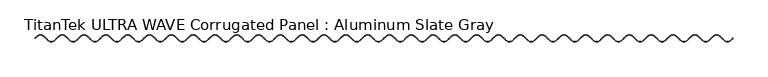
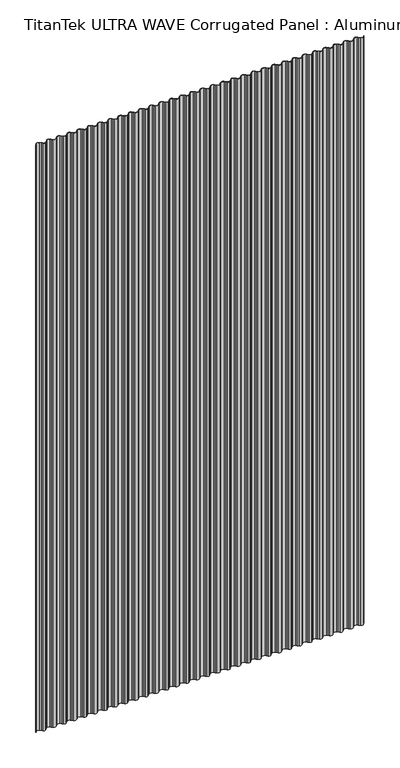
"""IFC4 building model written with IfcOpenShell, lengths in millimetres: proxy geometry, TitanTek ULTRA WAVE Corrugated Panel : Aluminum Slate Gray."""

from ifc_helpers import new_model, si_unit, point, frame_2d, origin, origin_with_axes, place, context, project, spatial, polyline, circle_curve, trimmed, segment, composite_curve, outline, extrude, source, transform, mapped, element, save


def titantek_ultra_wave_corrugated_panel_aluminum_slate_gray_bfc90fa9(model_context):
    return source(origin(), model_context, "Body", "SweptSolid", [
        extrude(outline(composite_curve([segment(trimmed(circle_curve(frame_2d((4804.41, -7.499029)), 14.7255365), [point((4814.8225267, -17.9115558))], [point((4793.9974733, -17.9115558))], False, "CARTESIAN"), True, "CONTINUOUS"), segment(polyline([(4793.9974733, -17.9115558), (4787.5492087, -11.4632913), (4781.1009442, -5.0150267)]), True, "CONTINUOUS"), segment(trimmed(circle_curve(frame_2d((4771.39, -14.725971)), 13.733349), [point((4781.1009442, -5.0150267))], [point((4761.6790558, -5.0150267))], True, "CARTESIAN"), True, "CONTINUOUS"), segment(polyline([(4761.6790558, -5.0150267), (4755.2307913, -11.4632913), (4754.5292087, -10.7617087), (4760.9774733, -4.3134442)]), True, "CONTINUOUS"), segment(trimmed(circle_curve(frame_2d((4771.39, -14.725971)), 14.7255365), [point((4760.9774733, -4.3134442))], [point((4781.8025267, -4.3134442))], False, "CARTESIAN"), True, "CONTINUOUS"), segment(polyline([(4781.8025267, -4.3134442), (4788.2507913, -10.7617087), (4794.6990558, -17.2099733)]), True, "CONTINUOUS"), segment(trimmed(circle_curve(frame_2d((4804.41, -7.499029)), 13.733349), [point((4794.6990558, -17.2099733))], [point((4814.1209442, -17.2099733))], True, "CARTESIAN"), True, "CONTINUOUS"), segment(polyline([(4814.1209442, -17.2099733), (4820.5692087, -10.7617087), (4821.2707913, -11.4632913), (4814.8225267, -17.9115558)]), True, "CONTINUOUS")], self_intersect=False)), origin_with_axes(), (0.0, 0.0, 1.0), 4000.0),
        extrude(outline(composite_curve([segment(trimmed(circle_curve(frame_2d((4738.37, -7.499029)), 14.7255365), [point((4748.7825267, -17.9115558))], [point((4727.9574733, -17.9115558))], False, "CARTESIAN"), True, "CONTINUOUS"), segment(polyline([(4727.9574733, -17.9115558), (4721.5092087, -11.4632913), (4715.0609442, -5.0150267)]), True, "CONTINUOUS"), segment(trimmed(circle_curve(frame_2d((4705.35, -14.725971)), 13.733349), [point((4715.0609442, -5.0150267))], [point((4695.6390558, -5.0150267))], True, "CARTESIAN"), True, "CONTINUOUS"), segment(polyline([(4695.6390558, -5.0150267), (4689.1907913, -11.4632913), (4688.4892087, -10.7617087), (4694.9374733, -4.3134442)]), True, "CONTINUOUS"), segment(trimmed(circle_curve(frame_2d((4705.35, -14.725971)), 14.7255365), [point((4694.9374733, -4.3134442))], [point((4715.7625267, -4.3134442))], False, "CARTESIAN"), True, "CONTINUOUS"), segment(polyline([(4715.7625267, -4.3134442), (4722.2107913, -10.7617087), (4728.6590558, -17.2099733)]), True, "CONTINUOUS"), segment(trimmed(circle_curve(frame_2d((4738.37, -7.499029)), 13.733349), [point((4728.6590558, -17.2099733))], [point((4748.0809442, -17.2099733))], True, "CARTESIAN"), True, "CONTINUOUS"), segment(polyline([(4748.0809442, -17.2099733), (4754.5292087, -10.7617087), (4755.2307913, -11.4632913), (4748.7825267, -17.9115558)]), True, "CONTINUOUS")], self_intersect=False)), origin_with_axes(), (0.0, 0.0, 1.0), 4000.0),
        extrude(outline(composite_curve([segment(trimmed(circle_curve(frame_2d((4672.33, -7.499029)), 14.7255365), [point((4682.7425267, -17.9115558))], [point((4661.9174733, -17.9115558))], False, "CARTESIAN"), True, "CONTINUOUS"), segment(polyline([(4661.9174733, -17.9115558), (4655.4692087, -11.4632913), (4649.0209442, -5.0150267)]), True, "CONTINUOUS"), segment(trimmed(circle_curve(frame_2d((4639.31, -14.725971)), 13.733349), [point((4649.0209442, -5.0150267))], [point((4629.5990558, -5.0150267))], True, "CARTESIAN"), True, "CONTINUOUS"), segment(polyline([(4629.5990558, -5.0150267), (4623.1507913, -11.4632913), (4622.4492087, -10.7617087), (4628.8974733, -4.3134442)]), True, "CONTINUOUS"), segment(trimmed(circle_curve(frame_2d((4639.31, -14.725971)), 14.7255365), [point((4628.8974733, -4.3134442))], [point((4649.7225267, -4.3134442))], False, "CARTESIAN"), True, "CONTINUOUS"), segment(polyline([(4649.7225267, -4.3134442), (4656.1707913, -10.7617087), (4662.6190558, -17.2099733)]), True, "CONTINUOUS"), segment(trimmed(circle_curve(frame_2d((4672.33, -7.499029)), 13.733349), [point((4662.6190558, -17.2099733))], [point((4682.0409442, -17.2099733))], True, "CARTESIAN"), True, "CONTINUOUS"), segment(polyline([(4682.0409442, -17.2099733), (4688.4892087, -10.7617087), (4689.1907913, -11.4632913), (4682.7425267, -17.9115558)]), True, "CONTINUOUS")], self_intersect=False)), origin_with_axes(), (0.0, 0.0, 1.0), 4000.0),
        extrude(outline(composite_curve([segment(trimmed(circle_curve(frame_2d((4606.29, -7.499029)), 14.7255365), [point((4616.7025267, -17.9115558))], [point((4595.8774733, -17.9115558))], False, "CARTESIAN"), True, "CONTINUOUS"), segment(polyline([(4595.8774733, -17.9115558), (4589.4292087, -11.4632913), (4582.9809442, -5.0150267)]), True, "CONTINUOUS"), segment(trimmed(circle_curve(frame_2d((4573.27, -14.725971)), 13.733349), [point((4582.9809442, -5.0150267))], [point((4563.5590558, -5.0150267))], True, "CARTESIAN"), True, "CONTINUOUS"), segment(polyline([(4563.5590558, -5.0150267), (4557.1107913, -11.4632913), (4556.4092087, -10.7617087), (4562.8574733, -4.3134442)]), True, "CONTINUOUS"), segment(trimmed(circle_curve(frame_2d((4573.27, -14.725971)), 14.7255365), [point((4562.8574733, -4.3134442))], [point((4583.6825267, -4.3134442))], False, "CARTESIAN"), True, "CONTINUOUS"), segment(polyline([(4583.6825267, -4.3134442), (4590.1307913, -10.7617087), (4596.5790558, -17.2099733)]), True, "CONTINUOUS"), segment(trimmed(circle_curve(frame_2d((4606.29, -7.499029)), 13.733349), [point((4596.5790558, -17.2099733))], [point((4616.0009442, -17.2099733))], True, "CARTESIAN"), True, "CONTINUOUS"), segment(polyline([(4616.0009442, -17.2099733), (4622.4492087, -10.7617087), (4623.1507913, -11.4632913), (4616.7025267, -17.9115558)]), True, "CONTINUOUS")], self_intersect=False)), origin_with_axes(), (0.0, 0.0, 1.0), 4000.0),
        extrude(outline(composite_curve([segment(trimmed(circle_curve(frame_2d((4540.25, -7.499029)), 14.7255365), [point((4550.6625267, -17.9115558))], [point((4529.8374733, -17.9115558))], False, "CARTESIAN"), True, "CONTINUOUS"), segment(polyline([(4529.8374733, -17.9115558), (4523.3892087, -11.4632913), (4516.9409442, -5.0150267)]), True, "CONTINUOUS"), segment(trimmed(circle_curve(frame_2d((4507.23, -14.725971)), 13.733349), [point((4516.9409442, -5.0150267))], [point((4497.5190558, -5.0150267))], True, "CARTESIAN"), True, "CONTINUOUS"), segment(polyline([(4497.5190558, -5.0150267), (4491.0707913, -11.4632913), (4490.3692087, -10.7617087), (4496.8174733, -4.3134442)]), True, "CONTINUOUS"), segment(trimmed(circle_curve(frame_2d((4507.23, -14.725971)), 14.7255365), [point((4496.8174733, -4.3134442))], [point((4517.6425267, -4.3134442))], False, "CARTESIAN"), True, "CONTINUOUS"), segment(polyline([(4517.6425267, -4.3134442), (4524.0907913, -10.7617087), (4530.5390558, -17.2099733)]), True, "CONTINUOUS"), segment(trimmed(circle_curve(frame_2d((4540.25, -7.499029)), 13.733349), [point((4530.5390558, -17.2099733))], [point((4549.9609442, -17.2099733))], True, "CARTESIAN"), True, "CONTINUOUS"), segment(polyline([(4549.9609442, -17.2099733), (4556.4092087, -10.7617087), (4557.1107913, -11.4632913), (4550.6625267, -17.9115558)]), True, "CONTINUOUS")], self_intersect=False)), origin_with_axes(), (0.0, 0.0, 1.0), 4000.0),
        extrude(outline(composite_curve([segment(trimmed(circle_curve(frame_2d((4474.21, -7.499029)), 14.7255365), [point((4484.6225267, -17.9115558))], [point((4463.7974733, -17.9115558))], False, "CARTESIAN"), True, "CONTINUOUS"), segment(polyline([(4463.7974733, -17.9115558), (4457.3492087, -11.4632913), (4450.9009442, -5.0150267)]), True, "CONTINUOUS"), segment(trimmed(circle_curve(frame_2d((4441.19, -14.725971)), 13.733349), [point((4450.9009442, -5.0150267))], [point((4431.4790558, -5.0150267))], True, "CARTESIAN"), True, "CONTINUOUS"), segment(polyline([(4431.4790558, -5.0150267), (4425.0307913, -11.4632913), (4424.3292087, -10.7617087), (4430.7774733, -4.3134442)]), True, "CONTINUOUS"), segment(trimmed(circle_curve(frame_2d((4441.19, -14.725971)), 14.7255365), [point((4430.7774733, -4.3134442))], [point((4451.6025267, -4.3134442))], False, "CARTESIAN"), True, "CONTINUOUS"), segment(polyline([(4451.6025267, -4.3134442), (4458.0507913, -10.7617087), (4464.4990558, -17.2099733)]), True, "CONTINUOUS"), segment(trimmed(circle_curve(frame_2d((4474.21, -7.499029)), 13.733349), [point((4464.4990558, -17.2099733))], [point((4483.9209442, -17.2099733))], True, "CARTESIAN"), True, "CONTINUOUS"), segment(polyline([(4483.9209442, -17.2099733), (4490.3692087, -10.7617087), (4491.0707913, -11.4632913), (4484.6225267, -17.9115558)]), True, "CONTINUOUS")], self_intersect=False)), origin_with_axes(), (0.0, 0.0, 1.0), 4000.0),
        extrude(outline(composite_curve([segment(trimmed(circle_curve(frame_2d((4408.17, -7.499029)), 14.7255365), [point((4418.5825267, -17.9115558))], [point((4397.7574733, -17.9115558))], False, "CARTESIAN"), True, "CONTINUOUS"), segment(polyline([(4397.7574733, -17.9115558), (4391.3092087, -11.4632913), (4384.8609442, -5.0150267)]), True, "CONTINUOUS"), segment(trimmed(circle_curve(frame_2d((4375.15, -14.725971)), 13.733349), [point((4384.8609442, -5.0150267))], [point((4365.4390558, -5.0150267))], True, "CARTESIAN"), True, "CONTINUOUS"), segment(polyline([(4365.4390558, -5.0150267), (4358.9907913, -11.4632913), (4358.2892087, -10.7617087), (4364.7374733, -4.3134442)]), True, "CONTINUOUS"), segment(trimmed(circle_curve(frame_2d((4375.15, -14.725971)), 14.7255365), [point((4364.7374733, -4.3134442))], [point((4385.5625267, -4.3134442))], False, "CARTESIAN"), True, "CONTINUOUS"), segment(polyline([(4385.5625267, -4.3134442), (4392.0107913, -10.7617087), (4398.4590558, -17.2099733)]), True, "CONTINUOUS"), segment(trimmed(circle_curve(frame_2d((4408.17, -7.499029)), 13.733349), [point((4398.4590558, -17.2099733))], [point((4417.8809442, -17.2099733))], True, "CARTESIAN"), True, "CONTINUOUS"), segment(polyline([(4417.8809442, -17.2099733), (4424.3292087, -10.7617087), (4425.0307913, -11.4632913), (4418.5825267, -17.9115558)]), True, "CONTINUOUS")], self_intersect=False)), origin_with_axes(), (0.0, 0.0, 1.0), 4000.0),
        extrude(outline(composite_curve([segment(trimmed(circle_curve(frame_2d((4342.13, -7.499029)), 14.7255365), [point((4352.5425267, -17.9115558))], [point((4331.7174733, -17.9115558))], False, "CARTESIAN"), True, "CONTINUOUS"), segment(polyline([(4331.7174733, -17.9115558), (4325.2692087, -11.4632913), (4318.8209442, -5.0150267)]), True, "CONTINUOUS"), segment(trimmed(circle_curve(frame_2d((4309.11, -14.725971)), 13.733349), [point((4318.8209442, -5.0150267))], [point((4299.3990558, -5.0150267))], True, "CARTESIAN"), True, "CONTINUOUS"), segment(polyline([(4299.3990558, -5.0150267), (4292.9507913, -11.4632913), (4292.2492087, -10.7617087), (4298.6974733, -4.3134442)]), True, "CONTINUOUS"), segment(trimmed(circle_curve(frame_2d((4309.11, -14.725971)), 14.7255365), [point((4298.6974733, -4.3134442))], [point((4319.5225267, -4.3134442))], False, "CARTESIAN"), True, "CONTINUOUS"), segment(polyline([(4319.5225267, -4.3134442), (4325.9707913, -10.7617087), (4332.4190558, -17.2099733)]), True, "CONTINUOUS"), segment(trimmed(circle_curve(frame_2d((4342.13, -7.499029)), 13.733349), [point((4332.4190558, -17.2099733))], [point((4351.8409442, -17.2099733))], True, "CARTESIAN"), True, "CONTINUOUS"), segment(polyline([(4351.8409442, -17.2099733), (4358.2892087, -10.7617087), (4358.9907913, -11.4632913), (4352.5425267, -17.9115558)]), True, "CONTINUOUS")], self_intersect=False)), origin_with_axes(), (0.0, 0.0, 1.0), 4000.0),
        extrude(outline(composite_curve([segment(trimmed(circle_curve(frame_2d((4276.09, -7.499029)), 14.7255365), [point((4286.5025267, -17.9115558))], [point((4265.6774733, -17.9115558))], False, "CARTESIAN"), True, "CONTINUOUS"), segment(polyline([(4265.6774733, -17.9115558), (4259.2292087, -11.4632913), (4252.7809442, -5.0150267)]), True, "CONTINUOUS"), segment(trimmed(circle_curve(frame_2d((4243.07, -14.725971)), 13.733349), [point((4252.7809442, -5.0150267))], [point((4233.3590558, -5.0150267))], True, "CARTESIAN"), True, "CONTINUOUS"), segment(polyline([(4233.3590558, -5.0150267), (4226.9107913, -11.4632913), (4226.2092087, -10.7617087), (4232.6574733, -4.3134442)]), True, "CONTINUOUS"), segment(trimmed(circle_curve(frame_2d((4243.07, -14.725971)), 14.7255365), [point((4232.6574733, -4.3134442))], [point((4253.4825267, -4.3134442))], False, "CARTESIAN"), True, "CONTINUOUS"), segment(polyline([(4253.4825267, -4.3134442), (4259.9307913, -10.7617087), (4266.3790558, -17.2099733)]), True, "CONTINUOUS"), segment(trimmed(circle_curve(frame_2d((4276.09, -7.499029)), 13.733349), [point((4266.3790558, -17.2099733))], [point((4285.8009442, -17.2099733))], True, "CARTESIAN"), True, "CONTINUOUS"), segment(polyline([(4285.8009442, -17.2099733), (4292.2492087, -10.7617087), (4292.9507913, -11.4632913), (4286.5025267, -17.9115558)]), True, "CONTINUOUS")], self_intersect=False)), origin_with_axes(), (0.0, 0.0, 1.0), 4000.0),
        extrude(outline(composite_curve([segment(trimmed(circle_curve(frame_2d((4210.05, -7.499029)), 14.7255365), [point((4220.4625267, -17.9115558))], [point((4199.6374733, -17.9115558))], False, "CARTESIAN"), True, "CONTINUOUS"), segment(polyline([(4199.6374733, -17.9115558), (4193.1892087, -11.4632913), (4186.7409442, -5.0150267)]), True, "CONTINUOUS"), segment(trimmed(circle_curve(frame_2d((4177.03, -14.725971)), 13.733349), [point((4186.7409442, -5.0150267))], [point((4167.3190558, -5.0150267))], True, "CARTESIAN"), True, "CONTINUOUS"), segment(polyline([(4167.3190558, -5.0150267), (4160.8707913, -11.4632913), (4160.1692087, -10.7617087), (4166.6174733, -4.3134442)]), True, "CONTINUOUS"), segment(trimmed(circle_curve(frame_2d((4177.03, -14.725971)), 14.7255365), [point((4166.6174733, -4.3134442))], [point((4187.4425267, -4.3134442))], False, "CARTESIAN"), True, "CONTINUOUS"), segment(polyline([(4187.4425267, -4.3134442), (4193.8907913, -10.7617087), (4200.3390558, -17.2099733)]), True, "CONTINUOUS"), segment(trimmed(circle_curve(frame_2d((4210.05, -7.499029)), 13.733349), [point((4200.3390558, -17.2099733))], [point((4219.7609442, -17.2099733))], True, "CARTESIAN"), True, "CONTINUOUS"), segment(polyline([(4219.7609442, -17.2099733), (4226.2092087, -10.7617087), (4226.9107913, -11.4632913), (4220.4625267, -17.9115558)]), True, "CONTINUOUS")], self_intersect=False)), origin_with_axes(), (0.0, 0.0, 1.0), 4000.0),
        extrude(outline(composite_curve([segment(trimmed(circle_curve(frame_2d((4144.01, -7.499029)), 14.7255365), [point((4154.4225267, -17.9115558))], [point((4133.5974733, -17.9115558))], False, "CARTESIAN"), True, "CONTINUOUS"), segment(polyline([(4133.5974733, -17.9115558), (4127.1492087, -11.4632913), (4120.7009442, -5.0150267)]), True, "CONTINUOUS"), segment(trimmed(circle_curve(frame_2d((4110.99, -14.725971)), 13.733349), [point((4120.7009442, -5.0150267))], [point((4101.2790558, -5.0150267))], True, "CARTESIAN"), True, "CONTINUOUS"), segment(polyline([(4101.2790558, -5.0150267), (4094.8307913, -11.4632913), (4094.1292087, -10.7617087), (4100.5774733, -4.3134442)]), True, "CONTINUOUS"), segment(trimmed(circle_curve(frame_2d((4110.99, -14.725971)), 14.7255365), [point((4100.5774733, -4.3134442))], [point((4121.4025267, -4.3134442))], False, "CARTESIAN"), True, "CONTINUOUS"), segment(polyline([(4121.4025267, -4.3134442), (4127.8507913, -10.7617087), (4134.2990558, -17.2099733)]), True, "CONTINUOUS"), segment(trimmed(circle_curve(frame_2d((4144.01, -7.499029)), 13.733349), [point((4134.2990558, -17.2099733))], [point((4153.7209442, -17.2099733))], True, "CARTESIAN"), True, "CONTINUOUS"), segment(polyline([(4153.7209442, -17.2099733), (4160.1692087, -10.7617087), (4160.8707913, -11.4632913), (4154.4225267, -17.9115558)]), True, "CONTINUOUS")], self_intersect=False)), origin_with_axes(), (0.0, 0.0, 1.0), 4000.0),
        extrude(outline(composite_curve([segment(trimmed(circle_curve(frame_2d((4077.97, -7.499029)), 14.7255365), [point((4088.3825267, -17.9115558))], [point((4067.5574733, -17.9115558))], False, "CARTESIAN"), True, "CONTINUOUS"), segment(polyline([(4067.5574733, -17.9115558), (4061.1092087, -11.4632913), (4054.6609442, -5.0150267)]), True, "CONTINUOUS"), segment(trimmed(circle_curve(frame_2d((4044.95, -14.725971)), 13.733349), [point((4054.6609442, -5.0150267))], [point((4035.2390558, -5.0150267))], True, "CARTESIAN"), True, "CONTINUOUS"), segment(polyline([(4035.2390558, -5.0150267), (4028.7907913, -11.4632913), (4028.0892087, -10.7617087), (4034.5374733, -4.3134442)]), True, "CONTINUOUS"), segment(trimmed(circle_curve(frame_2d((4044.95, -14.725971)), 14.7255365), [point((4034.5374733, -4.3134442))], [point((4055.3625267, -4.3134442))], False, "CARTESIAN"), True, "CONTINUOUS"), segment(polyline([(4055.3625267, -4.3134442), (4061.8107913, -10.7617087), (4068.2590558, -17.2099733)]), True, "CONTINUOUS"), segment(trimmed(circle_curve(frame_2d((4077.97, -7.499029)), 13.733349), [point((4068.2590558, -17.2099733))], [point((4087.6809442, -17.2099733))], True, "CARTESIAN"), True, "CONTINUOUS"), segment(polyline([(4087.6809442, -17.2099733), (4094.1292087, -10.7617087), (4094.8307913, -11.4632913), (4088.3825267, -17.9115558)]), True, "CONTINUOUS")], self_intersect=False)), origin_with_axes(), (0.0, 0.0, 1.0), 4000.0),
        extrude(outline(composite_curve([segment(trimmed(circle_curve(frame_2d((4011.93, -7.499029)), 14.7255365), [point((4022.3425267, -17.9115558))], [point((4001.5174733, -17.9115558))], False, "CARTESIAN"), True, "CONTINUOUS"), segment(polyline([(4001.5174733, -17.9115558), (3995.0692087, -11.4632913), (3988.6209442, -5.0150267)]), True, "CONTINUOUS"), segment(trimmed(circle_curve(frame_2d((3978.91, -14.725971)), 13.733349), [point((3988.6209442, -5.0150267))], [point((3969.1990558, -5.0150267))], True, "CARTESIAN"), True, "CONTINUOUS"), segment(polyline([(3969.1990558, -5.0150267), (3962.7507913, -11.4632913), (3962.0492087, -10.7617087), (3968.4974733, -4.3134442)]), True, "CONTINUOUS"), segment(trimmed(circle_curve(frame_2d((3978.91, -14.725971)), 14.7255365), [point((3968.4974733, -4.3134442))], [point((3989.3225267, -4.3134442))], False, "CARTESIAN"), True, "CONTINUOUS"), segment(polyline([(3989.3225267, -4.3134442), (3995.7707913, -10.7617087), (4002.2190558, -17.2099733)]), True, "CONTINUOUS"), segment(trimmed(circle_curve(frame_2d((4011.93, -7.499029)), 13.733349), [point((4002.2190558, -17.2099733))], [point((4021.6409442, -17.2099733))], True, "CARTESIAN"), True, "CONTINUOUS"), segment(polyline([(4021.6409442, -17.2099733), (4028.0892087, -10.7617087), (4028.7907913, -11.4632913), (4022.3425267, -17.9115558)]), True, "CONTINUOUS")], self_intersect=False)), origin_with_axes(), (0.0, 0.0, 1.0), 4000.0),
        extrude(outline(composite_curve([segment(trimmed(circle_curve(frame_2d((3945.89, -7.499029)), 14.7255365), [point((3956.3025267, -17.9115558))], [point((3935.4774733, -17.9115558))], False, "CARTESIAN"), True, "CONTINUOUS"), segment(polyline([(3935.4774733, -17.9115558), (3929.0292087, -11.4632913), (3922.5809442, -5.0150267)]), True, "CONTINUOUS"), segment(trimmed(circle_curve(frame_2d((3912.87, -14.725971)), 13.733349), [point((3922.5809442, -5.0150267))], [point((3903.1590558, -5.0150267))], True, "CARTESIAN"), True, "CONTINUOUS"), segment(polyline([(3903.1590558, -5.0150267), (3896.7107913, -11.4632913), (3896.0092087, -10.7617087), (3902.4574733, -4.3134442)]), True, "CONTINUOUS"), segment(trimmed(circle_curve(frame_2d((3912.87, -14.725971)), 14.7255365), [point((3902.4574733, -4.3134442))], [point((3923.2825267, -4.3134442))], False, "CARTESIAN"), True, "CONTINUOUS"), segment(polyline([(3923.2825267, -4.3134442), (3929.7307913, -10.7617087), (3936.1790558, -17.2099733)]), True, "CONTINUOUS"), segment(trimmed(circle_curve(frame_2d((3945.89, -7.499029)), 13.733349), [point((3936.1790558, -17.2099733))], [point((3955.6009442, -17.2099733))], True, "CARTESIAN"), True, "CONTINUOUS"), segment(polyline([(3955.6009442, -17.2099733), (3962.0492087, -10.7617087), (3962.7507913, -11.4632913), (3956.3025267, -17.9115558)]), True, "CONTINUOUS")], self_intersect=False)), origin_with_axes(), (0.0, 0.0, 1.0), 4000.0),
        extrude(outline(composite_curve([segment(trimmed(circle_curve(frame_2d((3879.85, -7.499029)), 14.7255365), [point((3890.2625267, -17.9115558))], [point((3869.4374733, -17.9115558))], False, "CARTESIAN"), True, "CONTINUOUS"), segment(polyline([(3869.4374733, -17.9115558), (3862.9892087, -11.4632913), (3856.5409442, -5.0150267)]), True, "CONTINUOUS"), segment(trimmed(circle_curve(frame_2d((3846.83, -14.725971)), 13.733349), [point((3856.5409442, -5.0150267))], [point((3837.1190558, -5.0150267))], True, "CARTESIAN"), True, "CONTINUOUS"), segment(polyline([(3837.1190558, -5.0150267), (3830.6707913, -11.4632913), (3829.9692087, -10.7617087), (3836.4174733, -4.3134442)]), True, "CONTINUOUS"), segment(trimmed(circle_curve(frame_2d((3846.83, -14.725971)), 14.7255365), [point((3836.4174733, -4.3134442))], [point((3857.2425267, -4.3134442))], False, "CARTESIAN"), True, "CONTINUOUS"), segment(polyline([(3857.2425267, -4.3134442), (3863.6907913, -10.7617087), (3870.1390558, -17.2099733)]), True, "CONTINUOUS"), segment(trimmed(circle_curve(frame_2d((3879.85, -7.499029)), 13.733349), [point((3870.1390558, -17.2099733))], [point((3889.5609442, -17.2099733))], True, "CARTESIAN"), True, "CONTINUOUS"), segment(polyline([(3889.5609442, -17.2099733), (3896.0092087, -10.7617087), (3896.7107913, -11.4632913), (3890.2625267, -17.9115558)]), True, "CONTINUOUS")], self_intersect=False)), origin_with_axes(), (0.0, 0.0, 1.0), 4000.0),
        extrude(outline(composite_curve([segment(trimmed(circle_curve(frame_2d((3813.81, -7.499029)), 14.7255365), [point((3824.2225267, -17.9115558))], [point((3803.3974733, -17.9115558))], False, "CARTESIAN"), True, "CONTINUOUS"), segment(polyline([(3803.3974733, -17.9115558), (3796.9492087, -11.4632913), (3790.5009442, -5.0150267)]), True, "CONTINUOUS"), segment(trimmed(circle_curve(frame_2d((3780.79, -14.725971)), 13.733349), [point((3790.5009442, -5.0150267))], [point((3771.0790558, -5.0150267))], True, "CARTESIAN"), True, "CONTINUOUS"), segment(polyline([(3771.0790558, -5.0150267), (3764.6307913, -11.4632913), (3763.9292087, -10.7617087), (3770.3774733, -4.3134442)]), True, "CONTINUOUS"), segment(trimmed(circle_curve(frame_2d((3780.79, -14.725971)), 14.7255365), [point((3770.3774733, -4.3134442))], [point((3791.2025267, -4.3134442))], False, "CARTESIAN"), True, "CONTINUOUS"), segment(polyline([(3791.2025267, -4.3134442), (3797.6507913, -10.7617087), (3804.0990558, -17.2099733)]), True, "CONTINUOUS"), segment(trimmed(circle_curve(frame_2d((3813.81, -7.499029)), 13.733349), [point((3804.0990558, -17.2099733))], [point((3823.5209442, -17.2099733))], True, "CARTESIAN"), True, "CONTINUOUS"), segment(polyline([(3823.5209442, -17.2099733), (3829.9692087, -10.7617087), (3830.6707913, -11.4632913), (3824.2225267, -17.9115558)]), True, "CONTINUOUS")], self_intersect=False)), origin_with_axes(), (0.0, 0.0, 1.0), 4000.0),
        extrude(outline(composite_curve([segment(trimmed(circle_curve(frame_2d((3747.77, -7.499029)), 14.7255365), [point((3758.1825267, -17.9115558))], [point((3737.3574733, -17.9115558))], False, "CARTESIAN"), True, "CONTINUOUS"), segment(polyline([(3737.3574733, -17.9115558), (3730.9092087, -11.4632913), (3724.4609442, -5.0150267)]), True, "CONTINUOUS"), segment(trimmed(circle_curve(frame_2d((3714.75, -14.725971)), 13.733349), [point((3724.4609442, -5.0150267))], [point((3705.0390558, -5.0150267))], True, "CARTESIAN"), True, "CONTINUOUS"), segment(polyline([(3705.0390558, -5.0150267), (3698.5907913, -11.4632913), (3697.8892087, -10.7617087), (3704.3374733, -4.3134442)]), True, "CONTINUOUS"), segment(trimmed(circle_curve(frame_2d((3714.75, -14.725971)), 14.7255365), [point((3704.3374733, -4.3134442))], [point((3725.1625267, -4.3134442))], False, "CARTESIAN"), True, "CONTINUOUS"), segment(polyline([(3725.1625267, -4.3134442), (3731.6107913, -10.7617087), (3738.0590558, -17.2099733)]), True, "CONTINUOUS"), segment(trimmed(circle_curve(frame_2d((3747.77, -7.499029)), 13.733349), [point((3738.0590558, -17.2099733))], [point((3757.4809442, -17.2099733))], True, "CARTESIAN"), True, "CONTINUOUS"), segment(polyline([(3757.4809442, -17.2099733), (3763.9292087, -10.7617087), (3764.6307913, -11.4632913), (3758.1825267, -17.9115558)]), True, "CONTINUOUS")], self_intersect=False)), origin_with_axes(), (0.0, 0.0, 1.0), 4000.0),
        extrude(outline(composite_curve([segment(trimmed(circle_curve(frame_2d((3681.73, -7.499029)), 14.7255365), [point((3692.1425267, -17.9115558))], [point((3671.3174733, -17.9115558))], False, "CARTESIAN"), True, "CONTINUOUS"), segment(polyline([(3671.3174733, -17.9115558), (3664.8692087, -11.4632913), (3658.4209442, -5.0150267)]), True, "CONTINUOUS"), segment(trimmed(circle_curve(frame_2d((3648.71, -14.725971)), 13.733349), [point((3658.4209442, -5.0150267))], [point((3638.9990558, -5.0150267))], True, "CARTESIAN"), True, "CONTINUOUS"), segment(polyline([(3638.9990558, -5.0150267), (3632.5507913, -11.4632913), (3631.8492087, -10.7617087), (3638.2974733, -4.3134442)]), True, "CONTINUOUS"), segment(trimmed(circle_curve(frame_2d((3648.71, -14.725971)), 14.7255365), [point((3638.2974733, -4.3134442))], [point((3659.1225267, -4.3134442))], False, "CARTESIAN"), True, "CONTINUOUS"), segment(polyline([(3659.1225267, -4.3134442), (3665.5707913, -10.7617087), (3672.0190558, -17.2099733)]), True, "CONTINUOUS"), segment(trimmed(circle_curve(frame_2d((3681.73, -7.499029)), 13.733349), [point((3672.0190558, -17.2099733))], [point((3691.4409442, -17.2099733))], True, "CARTESIAN"), True, "CONTINUOUS"), segment(polyline([(3691.4409442, -17.2099733), (3697.8892087, -10.7617087), (3698.5907913, -11.4632913), (3692.1425267, -17.9115558)]), True, "CONTINUOUS")], self_intersect=False)), origin_with_axes(), (0.0, 0.0, 1.0), 4000.0),
        extrude(outline(composite_curve([segment(trimmed(circle_curve(frame_2d((3615.69, -7.499029)), 14.7255365), [point((3626.1025267, -17.9115558))], [point((3605.2774733, -17.9115558))], False, "CARTESIAN"), True, "CONTINUOUS"), segment(polyline([(3605.2774733, -17.9115558), (3598.8292087, -11.4632913), (3592.3809442, -5.0150267)]), True, "CONTINUOUS"), segment(trimmed(circle_curve(frame_2d((3582.67, -14.725971)), 13.733349), [point((3592.3809442, -5.0150267))], [point((3572.9590558, -5.0150267))], True, "CARTESIAN"), True, "CONTINUOUS"), segment(polyline([(3572.9590558, -5.0150267), (3566.5107913, -11.4632913), (3565.8092087, -10.7617087), (3572.2574733, -4.3134442)]), True, "CONTINUOUS"), segment(trimmed(circle_curve(frame_2d((3582.67, -14.725971)), 14.7255365), [point((3572.2574733, -4.3134442))], [point((3593.0825267, -4.3134442))], False, "CARTESIAN"), True, "CONTINUOUS"), segment(polyline([(3593.0825267, -4.3134442), (3599.5307913, -10.7617087), (3605.9790558, -17.2099733)]), True, "CONTINUOUS"), segment(trimmed(circle_curve(frame_2d((3615.69, -7.499029)), 13.733349), [point((3605.9790558, -17.2099733))], [point((3625.4009442, -17.2099733))], True, "CARTESIAN"), True, "CONTINUOUS"), segment(polyline([(3625.4009442, -17.2099733), (3631.8492087, -10.7617087), (3632.5507913, -11.4632913), (3626.1025267, -17.9115558)]), True, "CONTINUOUS")], self_intersect=False)), origin_with_axes(), (0.0, 0.0, 1.0), 4000.0),
        extrude(outline(composite_curve([segment(trimmed(circle_curve(frame_2d((3549.65, -7.499029)), 14.7255365), [point((3560.0625267, -17.9115558))], [point((3539.2374733, -17.9115558))], False, "CARTESIAN"), True, "CONTINUOUS"), segment(polyline([(3539.2374733, -17.9115558), (3532.7892087, -11.4632913), (3526.3409442, -5.0150267)]), True, "CONTINUOUS"), segment(trimmed(circle_curve(frame_2d((3516.63, -14.725971)), 13.733349), [point((3526.3409442, -5.0150267))], [point((3506.9190558, -5.0150267))], True, "CARTESIAN"), True, "CONTINUOUS"), segment(polyline([(3506.9190558, -5.0150267), (3500.4707913, -11.4632913), (3499.7692087, -10.7617087), (3506.2174733, -4.3134442)]), True, "CONTINUOUS"), segment(trimmed(circle_curve(frame_2d((3516.63, -14.725971)), 14.7255365), [point((3506.2174733, -4.3134442))], [point((3527.0425267, -4.3134442))], False, "CARTESIAN"), True, "CONTINUOUS"), segment(polyline([(3527.0425267, -4.3134442), (3533.4907913, -10.7617087), (3539.9390558, -17.2099733)]), True, "CONTINUOUS"), segment(trimmed(circle_curve(frame_2d((3549.65, -7.499029)), 13.733349), [point((3539.9390558, -17.2099733))], [point((3559.3609442, -17.2099733))], True, "CARTESIAN"), True, "CONTINUOUS"), segment(polyline([(3559.3609442, -17.2099733), (3565.8092087, -10.7617087), (3566.5107913, -11.4632913), (3560.0625267, -17.9115558)]), True, "CONTINUOUS")], self_intersect=False)), origin_with_axes(), (0.0, 0.0, 1.0), 4000.0),
        extrude(outline(composite_curve([segment(trimmed(circle_curve(frame_2d((3483.61, -7.499029)), 14.7255365), [point((3494.0225267, -17.9115558))], [point((3473.1974733, -17.9115558))], False, "CARTESIAN"), True, "CONTINUOUS"), segment(polyline([(3473.1974733, -17.9115558), (3466.7492087, -11.4632913), (3460.3009442, -5.0150267)]), True, "CONTINUOUS"), segment(trimmed(circle_curve(frame_2d((3450.59, -14.725971)), 13.733349), [point((3460.3009442, -5.0150267))], [point((3440.8790558, -5.0150267))], True, "CARTESIAN"), True, "CONTINUOUS"), segment(polyline([(3440.8790558, -5.0150267), (3434.4307913, -11.4632913), (3433.7292087, -10.7617087), (3440.1774733, -4.3134442)]), True, "CONTINUOUS"), segment(trimmed(circle_curve(frame_2d((3450.59, -14.725971)), 14.7255365), [point((3440.1774733, -4.3134442))], [point((3461.0025267, -4.3134442))], False, "CARTESIAN"), True, "CONTINUOUS"), segment(polyline([(3461.0025267, -4.3134442), (3467.4507913, -10.7617087), (3473.8990558, -17.2099733)]), True, "CONTINUOUS"), segment(trimmed(circle_curve(frame_2d((3483.61, -7.499029)), 13.733349), [point((3473.8990558, -17.2099733))], [point((3493.3209442, -17.2099733))], True, "CARTESIAN"), True, "CONTINUOUS"), segment(polyline([(3493.3209442, -17.2099733), (3499.7692087, -10.7617087), (3500.4707913, -11.4632913), (3494.0225267, -17.9115558)]), True, "CONTINUOUS")], self_intersect=False)), origin_with_axes(), (0.0, 0.0, 1.0), 4000.0),
        extrude(outline(composite_curve([segment(trimmed(circle_curve(frame_2d((3417.57, -7.499029)), 14.7255365), [point((3427.9825267, -17.9115558))], [point((3407.1574733, -17.9115558))], False, "CARTESIAN"), True, "CONTINUOUS"), segment(polyline([(3407.1574733, -17.9115558), (3400.7092087, -11.4632913), (3394.2609442, -5.0150267)]), True, "CONTINUOUS"), segment(trimmed(circle_curve(frame_2d((3384.55, -14.725971)), 13.733349), [point((3394.2609442, -5.0150267))], [point((3374.8390558, -5.0150267))], True, "CARTESIAN"), True, "CONTINUOUS"), segment(polyline([(3374.8390558, -5.0150267), (3368.3907913, -11.4632913), (3367.6892087, -10.7617087), (3374.1374733, -4.3134442)]), True, "CONTINUOUS"), segment(trimmed(circle_curve(frame_2d((3384.55, -14.725971)), 14.7255365), [point((3374.1374733, -4.3134442))], [point((3394.9625267, -4.3134442))], False, "CARTESIAN"), True, "CONTINUOUS"), segment(polyline([(3394.9625267, -4.3134442), (3401.4107913, -10.7617087), (3407.8590558, -17.2099733)]), True, "CONTINUOUS"), segment(trimmed(circle_curve(frame_2d((3417.57, -7.499029)), 13.733349), [point((3407.8590558, -17.2099733))], [point((3427.2809442, -17.2099733))], True, "CARTESIAN"), True, "CONTINUOUS"), segment(polyline([(3427.2809442, -17.2099733), (3433.7292087, -10.7617087), (3434.4307913, -11.4632913), (3427.9825267, -17.9115558)]), True, "CONTINUOUS")], self_intersect=False)), origin_with_axes(), (0.0, 0.0, 1.0), 4000.0),
        extrude(outline(composite_curve([segment(trimmed(circle_curve(frame_2d((3351.53, -7.499029)), 14.7255365), [point((3361.9425267, -17.9115558))], [point((3341.1174733, -17.9115558))], False, "CARTESIAN"), True, "CONTINUOUS"), segment(polyline([(3341.1174733, -17.9115558), (3334.6692087, -11.4632913), (3328.2209442, -5.0150267)]), True, "CONTINUOUS"), segment(trimmed(circle_curve(frame_2d((3318.51, -14.725971)), 13.733349), [point((3328.2209442, -5.0150267))], [point((3308.7990558, -5.0150267))], True, "CARTESIAN"), True, "CONTINUOUS"), segment(polyline([(3308.7990558, -5.0150267), (3302.3507913, -11.4632913), (3301.6492087, -10.7617087), (3308.0974733, -4.3134442)]), True, "CONTINUOUS"), segment(trimmed(circle_curve(frame_2d((3318.51, -14.725971)), 14.7255365), [point((3308.0974733, -4.3134442))], [point((3328.9225267, -4.3134442))], False, "CARTESIAN"), True, "CONTINUOUS"), segment(polyline([(3328.9225267, -4.3134442), (3335.3707913, -10.7617087), (3341.8190558, -17.2099733)]), True, "CONTINUOUS"), segment(trimmed(circle_curve(frame_2d((3351.53, -7.499029)), 13.733349), [point((3341.8190558, -17.2099733))], [point((3361.2409442, -17.2099733))], True, "CARTESIAN"), True, "CONTINUOUS"), segment(polyline([(3361.2409442, -17.2099733), (3367.6892087, -10.7617087), (3368.3907913, -11.4632913), (3361.9425267, -17.9115558)]), True, "CONTINUOUS")], self_intersect=False)), origin_with_axes(), (0.0, 0.0, 1.0), 4000.0),
        extrude(outline(composite_curve([segment(trimmed(circle_curve(frame_2d((3285.49, -7.499029)), 14.7255365), [point((3295.9025267, -17.9115558))], [point((3275.0774733, -17.9115558))], False, "CARTESIAN"), True, "CONTINUOUS"), segment(polyline([(3275.0774733, -17.9115558), (3268.6292087, -11.4632913), (3262.1809442, -5.0150267)]), True, "CONTINUOUS"), segment(trimmed(circle_curve(frame_2d((3252.47, -14.725971)), 13.733349), [point((3262.1809442, -5.0150267))], [point((3242.7590558, -5.0150267))], True, "CARTESIAN"), True, "CONTINUOUS"), segment(polyline([(3242.7590558, -5.0150267), (3236.3107913, -11.4632913), (3235.6092087, -10.7617087), (3242.0574733, -4.3134442)]), True, "CONTINUOUS"), segment(trimmed(circle_curve(frame_2d((3252.47, -14.725971)), 14.7255365), [point((3242.0574733, -4.3134442))], [point((3262.8825267, -4.3134442))], False, "CARTESIAN"), True, "CONTINUOUS"), segment(polyline([(3262.8825267, -4.3134442), (3269.3307913, -10.7617087), (3275.7790558, -17.2099733)]), True, "CONTINUOUS"), segment(trimmed(circle_curve(frame_2d((3285.49, -7.499029)), 13.733349), [point((3275.7790558, -17.2099733))], [point((3295.2009442, -17.2099733))], True, "CARTESIAN"), True, "CONTINUOUS"), segment(polyline([(3295.2009442, -17.2099733), (3301.6492087, -10.7617087), (3302.3507913, -11.4632913), (3295.9025267, -17.9115558)]), True, "CONTINUOUS")], self_intersect=False)), origin_with_axes(), (0.0, 0.0, 1.0), 4000.0),
        extrude(outline(composite_curve([segment(trimmed(circle_curve(frame_2d((3219.45, -7.499029)), 14.7255365), [point((3229.8625267, -17.9115558))], [point((3209.0374733, -17.9115558))], False, "CARTESIAN"), True, "CONTINUOUS"), segment(polyline([(3209.0374733, -17.9115558), (3202.5892087, -11.4632913), (3196.1409442, -5.0150267)]), True, "CONTINUOUS"), segment(trimmed(circle_curve(frame_2d((3186.43, -14.725971)), 13.733349), [point((3196.1409442, -5.0150267))], [point((3176.7190558, -5.0150267))], True, "CARTESIAN"), True, "CONTINUOUS"), segment(polyline([(3176.7190558, -5.0150267), (3170.2707913, -11.4632913), (3169.5692087, -10.7617087), (3176.0174733, -4.3134442)]), True, "CONTINUOUS"), segment(trimmed(circle_curve(frame_2d((3186.43, -14.725971)), 14.7255365), [point((3176.0174733, -4.3134442))], [point((3196.8425267, -4.3134442))], False, "CARTESIAN"), True, "CONTINUOUS"), segment(polyline([(3196.8425267, -4.3134442), (3203.2907913, -10.7617087), (3209.7390558, -17.2099733)]), True, "CONTINUOUS"), segment(trimmed(circle_curve(frame_2d((3219.45, -7.499029)), 13.733349), [point((3209.7390558, -17.2099733))], [point((3229.1609442, -17.2099733))], True, "CARTESIAN"), True, "CONTINUOUS"), segment(polyline([(3229.1609442, -17.2099733), (3235.6092087, -10.7617087), (3236.3107913, -11.4632913), (3229.8625267, -17.9115558)]), True, "CONTINUOUS")], self_intersect=False)), origin_with_axes(), (0.0, 0.0, 1.0), 4000.0),
        extrude(outline(composite_curve([segment(trimmed(circle_curve(frame_2d((3153.41, -7.499029)), 14.7255365), [point((3163.8225267, -17.9115558))], [point((3142.9974733, -17.9115558))], False, "CARTESIAN"), True, "CONTINUOUS"), segment(polyline([(3142.9974733, -17.9115558), (3136.5492087, -11.4632913), (3130.1009442, -5.0150267)]), True, "CONTINUOUS"), segment(trimmed(circle_curve(frame_2d((3120.39, -14.725971)), 13.733349), [point((3130.1009442, -5.0150267))], [point((3110.6790558, -5.0150267))], True, "CARTESIAN"), True, "CONTINUOUS"), segment(polyline([(3110.6790558, -5.0150267), (3104.2307913, -11.4632913), (3103.5292087, -10.7617087), (3109.9774733, -4.3134442)]), True, "CONTINUOUS"), segment(trimmed(circle_curve(frame_2d((3120.39, -14.725971)), 14.7255365), [point((3109.9774733, -4.3134442))], [point((3130.8025267, -4.3134442))], False, "CARTESIAN"), True, "CONTINUOUS"), segment(polyline([(3130.8025267, -4.3134442), (3137.2507913, -10.7617087), (3143.6990558, -17.2099733)]), True, "CONTINUOUS"), segment(trimmed(circle_curve(frame_2d((3153.41, -7.499029)), 13.733349), [point((3143.6990558, -17.2099733))], [point((3163.1209442, -17.2099733))], True, "CARTESIAN"), True, "CONTINUOUS"), segment(polyline([(3163.1209442, -17.2099733), (3169.5692087, -10.7617087), (3170.2707913, -11.4632913), (3163.8225267, -17.9115558)]), True, "CONTINUOUS")], self_intersect=False)), origin_with_axes(), (0.0, 0.0, 1.0), 4000.0),
        extrude(outline(composite_curve([segment(trimmed(circle_curve(frame_2d((3087.37, -7.499029)), 14.7255365), [point((3097.7825267, -17.9115558))], [point((3076.9574733, -17.9115558))], False, "CARTESIAN"), True, "CONTINUOUS"), segment(polyline([(3076.9574733, -17.9115558), (3070.5092087, -11.4632913), (3064.0609442, -5.0150267)]), True, "CONTINUOUS"), segment(trimmed(circle_curve(frame_2d((3054.35, -14.725971)), 13.733349), [point((3064.0609442, -5.0150267))], [point((3044.6390558, -5.0150267))], True, "CARTESIAN"), True, "CONTINUOUS"), segment(polyline([(3044.6390558, -5.0150267), (3038.1907913, -11.4632913), (3037.4892087, -10.7617087), (3043.9374733, -4.3134442)]), True, "CONTINUOUS"), segment(trimmed(circle_curve(frame_2d((3054.35, -14.725971)), 14.7255365), [point((3043.9374733, -4.3134442))], [point((3064.7625267, -4.3134442))], False, "CARTESIAN"), True, "CONTINUOUS"), segment(polyline([(3064.7625267, -4.3134442), (3071.2107913, -10.7617087), (3077.6590558, -17.2099733)]), True, "CONTINUOUS"), segment(trimmed(circle_curve(frame_2d((3087.37, -7.499029)), 13.733349), [point((3077.6590558, -17.2099733))], [point((3097.0809442, -17.2099733))], True, "CARTESIAN"), True, "CONTINUOUS"), segment(polyline([(3097.0809442, -17.2099733), (3103.5292087, -10.7617087), (3104.2307913, -11.4632913), (3097.7825267, -17.9115558)]), True, "CONTINUOUS")], self_intersect=False)), origin_with_axes(), (0.0, 0.0, 1.0), 4000.0),
        extrude(outline(composite_curve([segment(trimmed(circle_curve(frame_2d((3021.33, -7.499029)), 14.7255365), [point((3031.7425267, -17.9115558))], [point((3010.9174733, -17.9115558))], False, "CARTESIAN"), True, "CONTINUOUS"), segment(polyline([(3010.9174733, -17.9115558), (3004.4692087, -11.4632913), (2998.0209442, -5.0150267)]), True, "CONTINUOUS"), segment(trimmed(circle_curve(frame_2d((2988.31, -14.725971)), 13.733349), [point((2998.0209442, -5.0150267))], [point((2978.5990558, -5.0150267))], True, "CARTESIAN"), True, "CONTINUOUS"), segment(polyline([(2978.5990558, -5.0150267), (2972.1507913, -11.4632913), (2971.4492087, -10.7617087), (2977.8974733, -4.3134442)]), True, "CONTINUOUS"), segment(trimmed(circle_curve(frame_2d((2988.31, -14.725971)), 14.7255365), [point((2977.8974733, -4.3134442))], [point((2998.7225267, -4.3134442))], False, "CARTESIAN"), True, "CONTINUOUS"), segment(polyline([(2998.7225267, -4.3134442), (3005.1707913, -10.7617087), (3011.6190558, -17.2099733)]), True, "CONTINUOUS"), segment(trimmed(circle_curve(frame_2d((3021.33, -7.499029)), 13.733349), [point((3011.6190558, -17.2099733))], [point((3031.0409442, -17.2099733))], True, "CARTESIAN"), True, "CONTINUOUS"), segment(polyline([(3031.0409442, -17.2099733), (3037.4892087, -10.7617087), (3038.1907913, -11.4632913), (3031.7425267, -17.9115558)]), True, "CONTINUOUS")], self_intersect=False)), origin_with_axes(), (0.0, 0.0, 1.0), 4000.0),
        extrude(outline(composite_curve([segment(trimmed(circle_curve(frame_2d((2955.29, -7.499029)), 14.7255365), [point((2965.7025267, -17.9115558))], [point((2944.8774733, -17.9115558))], False, "CARTESIAN"), True, "CONTINUOUS"), segment(polyline([(2944.8774733, -17.9115558), (2938.4292087, -11.4632913), (2931.9809442, -5.0150267)]), True, "CONTINUOUS"), segment(trimmed(circle_curve(frame_2d((2922.27, -14.725971)), 13.733349), [point((2931.9809442, -5.0150267))], [point((2912.5590558, -5.0150267))], True, "CARTESIAN"), True, "CONTINUOUS"), segment(polyline([(2912.5590558, -5.0150267), (2906.1107913, -11.4632913), (2905.4092087, -10.7617087), (2911.8574733, -4.3134442)]), True, "CONTINUOUS"), segment(trimmed(circle_curve(frame_2d((2922.27, -14.725971)), 14.7255365), [point((2911.8574733, -4.3134442))], [point((2932.6825267, -4.3134442))], False, "CARTESIAN"), True, "CONTINUOUS"), segment(polyline([(2932.6825267, -4.3134442), (2939.1307913, -10.7617087), (2945.5790558, -17.2099733)]), True, "CONTINUOUS"), segment(trimmed(circle_curve(frame_2d((2955.29, -7.499029)), 13.733349), [point((2945.5790558, -17.2099733))], [point((2965.0009442, -17.2099733))], True, "CARTESIAN"), True, "CONTINUOUS"), segment(polyline([(2965.0009442, -17.2099733), (2971.4492087, -10.7617087), (2972.1507913, -11.4632913), (2965.7025267, -17.9115558)]), True, "CONTINUOUS")], self_intersect=False)), origin_with_axes(), (0.0, 0.0, 1.0), 4000.0),
        extrude(outline(composite_curve([segment(trimmed(circle_curve(frame_2d((2889.25, -7.499029)), 14.7255365), [point((2899.6625267, -17.9115558))], [point((2878.8374733, -17.9115558))], False, "CARTESIAN"), True, "CONTINUOUS"), segment(polyline([(2878.8374733, -17.9115558), (2872.3892087, -11.4632913), (2865.9409442, -5.0150267)]), True, "CONTINUOUS"), segment(trimmed(circle_curve(frame_2d((2856.23, -14.725971)), 13.733349), [point((2865.9409442, -5.0150267))], [point((2846.5190558, -5.0150267))], True, "CARTESIAN"), True, "CONTINUOUS"), segment(polyline([(2846.5190558, -5.0150267), (2840.0707913, -11.4632913), (2839.3692087, -10.7617087), (2845.8174733, -4.3134442)]), True, "CONTINUOUS"), segment(trimmed(circle_curve(frame_2d((2856.23, -14.725971)), 14.7255365), [point((2845.8174733, -4.3134442))], [point((2866.6425267, -4.3134442))], False, "CARTESIAN"), True, "CONTINUOUS"), segment(polyline([(2866.6425267, -4.3134442), (2873.0907913, -10.7617087), (2879.5390558, -17.2099733)]), True, "CONTINUOUS"), segment(trimmed(circle_curve(frame_2d((2889.25, -7.499029)), 13.733349), [point((2879.5390558, -17.2099733))], [point((2898.9609442, -17.2099733))], True, "CARTESIAN"), True, "CONTINUOUS"), segment(polyline([(2898.9609442, -17.2099733), (2905.4092087, -10.7617087), (2906.1107913, -11.4632913), (2899.6625267, -17.9115558)]), True, "CONTINUOUS")], self_intersect=False)), origin_with_axes(), (0.0, 0.0, 1.0), 4000.0),
        extrude(outline(composite_curve([segment(trimmed(circle_curve(frame_2d((2823.21, -7.499029)), 14.7255365), [point((2833.6225267, -17.9115558))], [point((2812.7974733, -17.9115558))], False, "CARTESIAN"), True, "CONTINUOUS"), segment(polyline([(2812.7974733, -17.9115558), (2806.3492087, -11.4632913), (2799.9009442, -5.0150267)]), True, "CONTINUOUS"), segment(trimmed(circle_curve(frame_2d((2790.19, -14.725971)), 13.733349), [point((2799.9009442, -5.0150267))], [point((2780.4790558, -5.0150267))], True, "CARTESIAN"), True, "CONTINUOUS"), segment(polyline([(2780.4790558, -5.0150267), (2774.0307913, -11.4632913), (2773.3292087, -10.7617087), (2779.7774733, -4.3134442)]), True, "CONTINUOUS"), segment(trimmed(circle_curve(frame_2d((2790.19, -14.725971)), 14.7255365), [point((2779.7774733, -4.3134442))], [point((2800.6025267, -4.3134442))], False, "CARTESIAN"), True, "CONTINUOUS"), segment(polyline([(2800.6025267, -4.3134442), (2807.0507913, -10.7617087), (2813.4990558, -17.2099733)]), True, "CONTINUOUS"), segment(trimmed(circle_curve(frame_2d((2823.21, -7.499029)), 13.733349), [point((2813.4990558, -17.2099733))], [point((2832.9209442, -17.2099733))], True, "CARTESIAN"), True, "CONTINUOUS"), segment(polyline([(2832.9209442, -17.2099733), (2839.3692087, -10.7617087), (2840.0707913, -11.4632913), (2833.6225267, -17.9115558)]), True, "CONTINUOUS")], self_intersect=False)), origin_with_axes(), (0.0, 0.0, 1.0), 4000.0),
        extrude(outline(composite_curve([segment(trimmed(circle_curve(frame_2d((2757.17, -7.499029)), 14.7255365), [point((2767.5825267, -17.9115558))], [point((2746.7574733, -17.9115558))], False, "CARTESIAN"), True, "CONTINUOUS"), segment(polyline([(2746.7574733, -17.9115558), (2740.3092087, -11.4632913), (2733.8609442, -5.0150267)]), True, "CONTINUOUS"), segment(trimmed(circle_curve(frame_2d((2724.15, -14.725971)), 13.733349), [point((2733.8609442, -5.0150267))], [point((2714.4390558, -5.0150267))], True, "CARTESIAN"), True, "CONTINUOUS"), segment(polyline([(2714.4390558, -5.0150267), (2707.9907913, -11.4632913), (2707.2892087, -10.7617087), (2713.7374733, -4.3134442)]), True, "CONTINUOUS"), segment(trimmed(circle_curve(frame_2d((2724.15, -14.725971)), 14.7255365), [point((2713.7374733, -4.3134442))], [point((2734.5625267, -4.3134442))], False, "CARTESIAN"), True, "CONTINUOUS"), segment(polyline([(2734.5625267, -4.3134442), (2741.0107913, -10.7617087), (2747.4590558, -17.2099733)]), True, "CONTINUOUS"), segment(trimmed(circle_curve(frame_2d((2757.17, -7.499029)), 13.733349), [point((2747.4590558, -17.2099733))], [point((2766.8809442, -17.2099733))], True, "CARTESIAN"), True, "CONTINUOUS"), segment(polyline([(2766.8809442, -17.2099733), (2773.3292087, -10.7617087), (2774.0307913, -11.4632913), (2767.5825267, -17.9115558)]), True, "CONTINUOUS")], self_intersect=False)), origin_with_axes(), (0.0, 0.0, 1.0), 4000.0),
    ])


if __name__ == "__main__":
    model = new_model("IFC4")
    model_context = context("Model", 3, world=origin())
    ifc_project = project(units=[si_unit("LENGTHUNIT", "METRE", prefix="MILLI")], contexts=[model_context])
    site = spatial("IfcSite", under=ifc_project)
    building = spatial("IfcBuilding", under=site)
    placement = place(None, origin())
    titantek_ultra_wave_corrugated_panel_aluminum_slate_gray_shape = titantek_ultra_wave_corrugated_panel_aluminum_slate_gray_bfc90fa9(model_context)
    element("IfcBuildingElementProxy", 1, Name="TitanTek ULTRA WAVE Corrugated Panel : Aluminum Slate Gray", ObjectType="TitanTek ULTRA WAVE Corrugated Panel : Aluminum Slate Gray", at=placement, inside=building, context=model_context, shape_type="MappedRepresentation", body=[
        mapped(titantek_ultra_wave_corrugated_panel_aluminum_slate_gray_shape, transform((0.0, 0.0, 0.0), x_axis=(1.0, 0.0, 0.0), y_axis=(0.0, 1.0, 0.0), z_axis=(0.0, 0.0, 1.0))),
    ])
    save(model, "model.ifc")
